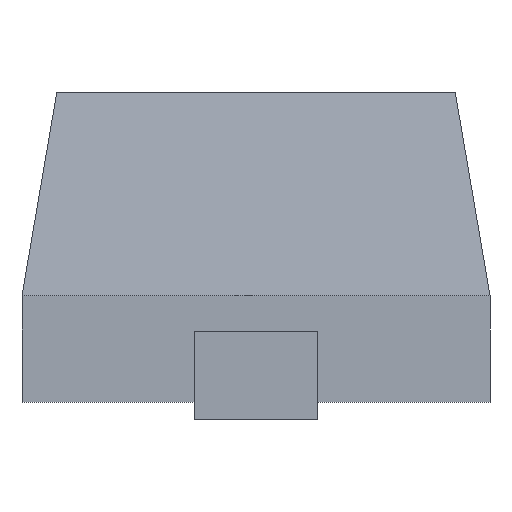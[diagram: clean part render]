
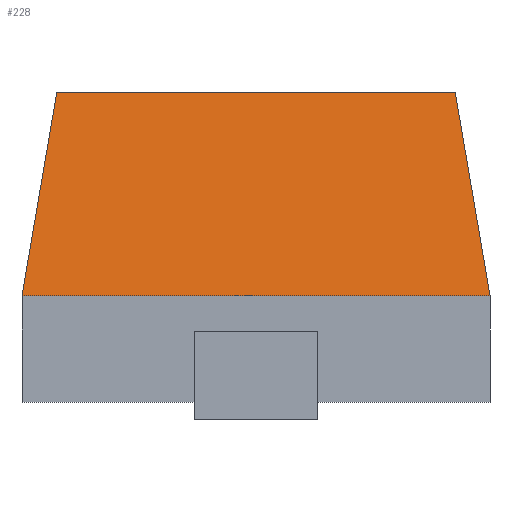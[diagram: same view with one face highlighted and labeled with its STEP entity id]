
A CAD part, front view. The second image highlights one B-rep face of the part: STEP entity #228.
In plain terms, the highlighted planar face has unit normal (0, -0.986, 0.169).
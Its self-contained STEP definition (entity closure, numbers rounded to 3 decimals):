
#141=CARTESIAN_POINT('',(0.573,-0.802,0.94));
#140=VERTEX_POINT('',#141);
#143=CARTESIAN_POINT('',(-0.573,-0.802,0.94));
#142=VERTEX_POINT('',#143);
#139=EDGE_CURVE('',#140,#142,#144,.T.);
#144=LINE('',#141,#146);
#146=VECTOR('',#147,1.146);
#147=DIRECTION('',(-1.0,0.0,0.0));
#228=ADVANCED_FACE('',(#234),#229,.T.);
#229=PLANE('',#230);
#230=AXIS2_PLACEMENT_3D('',#231,#232,#233);
#231=CARTESIAN_POINT('',(-0.673,-0.902,0.356));
#232=DIRECTION('',(0.0,-0.986,0.169));
#233=DIRECTION('',(0.,0.,1.));
#234=FACE_OUTER_BOUND('',#235,.T.);
#235=EDGE_LOOP('',(#236,#246,#256,#266));
#239=CARTESIAN_POINT('',(0.673,-0.902,0.356));
#238=VERTEX_POINT('',#239);
#241=CARTESIAN_POINT('',(-0.673,-0.902,0.356));
#240=VERTEX_POINT('',#241);
#237=EDGE_CURVE('',#238,#240,#242,.T.);
#242=LINE('',#239,#244);
#244=VECTOR('',#245,1.346);
#245=DIRECTION('',(-1.0,0.0,0.0));
#236=ORIENTED_EDGE('',*,*,#237,.F.);
#247=EDGE_CURVE('',#140,#238,#252,.T.);
#252=LINE('',#141,#254);
#254=VECTOR('',#255,0.601);
#255=DIRECTION('',(0.166,-0.166,-0.972));
#246=ORIENTED_EDGE('',*,*,#247,.F.);
#256=ORIENTED_EDGE('',*,*,#139,.T.);
#267=EDGE_CURVE('',#240,#142,#272,.T.);
#272=LINE('',#241,#274);
#274=VECTOR('',#275,0.601);
#275=DIRECTION('',(0.166,0.166,0.972));
#266=ORIENTED_EDGE('',*,*,#267,.F.);
